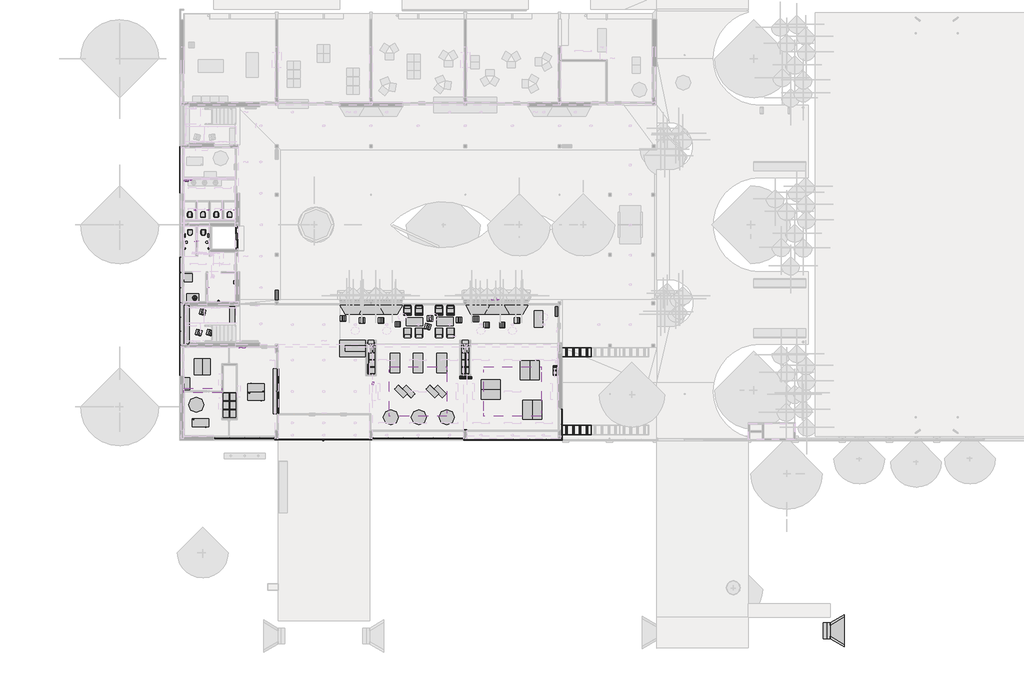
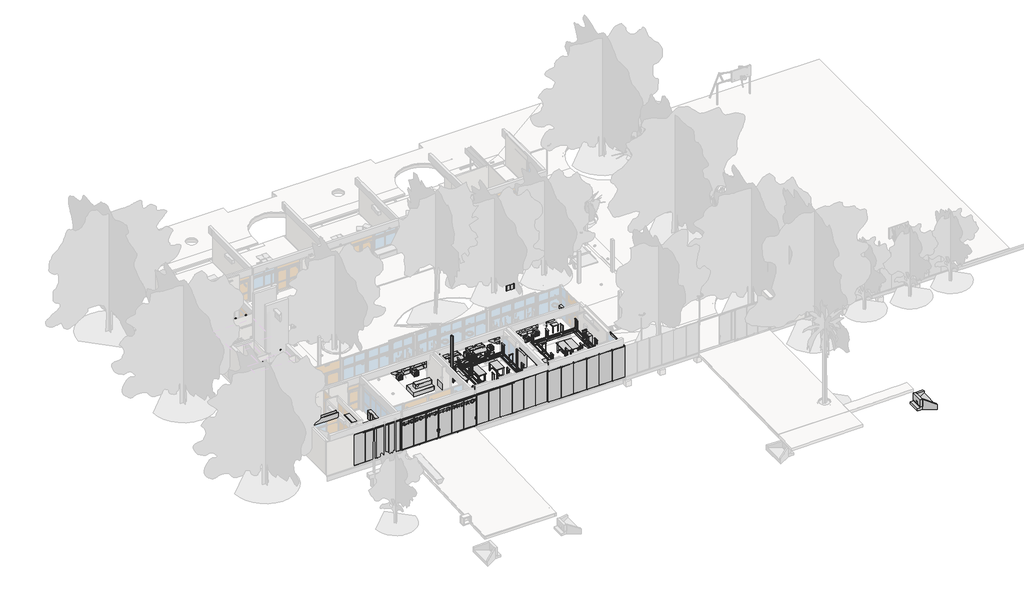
# One storey, part 17 of 22: 111 furniture elements, 12 flow terminals.
"""IFC4 building model written with IfcOpenShell, lengths in millimetres."""

from ifc_helpers import new_model, si_unit, frame, origin, place, context, project, spatial, polyline, circle_curve, outline, extrude, faceted_brep, transform, mapped, element, save
from ifc_brep_helpers import plane_surface, revolved_surface, advanced_brep
from components import flow_terminal_9181aeda, flow_terminal_78c35d65, flow_terminal_6fa54989, flow_terminal_28779c85, flow_terminal_a7845b32, furniture_e56d43f1, furniture_fee86474, furniture_ab439d99, furniture_2009737b, furniture_8aaaafb9, furniture_f0ac5a82, furniture_249bf919, furniture_e9eda647, furniture_beb05811, furniture_b563ccbc, furniture_6fc450c9, furniture_e9ee7769, furniture_d5f9400a, furniture_98008c16, furniture_2b1f3197, furniture_d2b343ed, furniture_6718e464, furniture_ebda3335, furniture_93ab70db, furniture_eb17cc9a, furniture_b6be04e7, furniture_6eccd7ec, furniture_77244c26, furniture_46a57376, furniture_a2313781, furniture_a3cfc38e, furniture_6e125edc, furniture_e4396d0a, furniture_8692d969, furniture_5da2b43e, furniture_8ed5fab2, furniture_ad757547, furniture_6cb53b01, furniture_6d9eaf94, furniture_0d6fb3f9, furniture_d7d46065, furniture_3ae75f37, furniture_bbb2e843, furniture_d5d44c6f, furniture_649de98c, furniture_868831be, furniture_17f0d0bd, furniture_2_12_escritorio_2_12_escritorio_cd86329a, furniture_2_16_mesa_redonda_2_16_mesa_redonda_79845c6b, furniture_2_7_mesa_baja_2_7_mesa_baja_48d4bc2e, generico_20x20_ad66ac92, generico_20x20_1fd937c5, generico_30x30_47294acd, puerta_ascensor_pet_puerta_ascensor_pet_5d3d87b6

model = new_model("IFC4")

# Units and contexts
model_context = context("Model", 3, world=origin())
ifc_project = project(units=[si_unit("LENGTHUNIT", "METRE", prefix="MILLI")], contexts=[model_context])

# Site, building, storey
site = spatial("IfcSite", under=ifc_project)
building = spatial("IfcBuilding", under=site)
storey = spatial("IfcBuildingStorey", under=building, Name="PLanta baja", Elevation=0.0)

# Flow terminals
placement = place(None, origin())
flow_terminal_shape = flow_terminal_9181aeda(model_context)
element("IfcFlowTerminal", 1, ObjectType="Inodoro-Ferrum-Tapa_y_Asiento-TKMP_TKM_TKXM_TKXMC : Tapa de Inodoro", at=placement, inside=storey, context=model_context, shape_type="MappedRepresentation", body=[
    mapped(flow_terminal_shape, transform((3842.4673694, 15870.1364374, 385.0), x_axis=(1.0, 0.0, 0.0), y_axis=(0.0, 1.0, 0.0), z_axis=(0.0, 0.0, 1.0))),
])
element("IfcFlowTerminal", 2, ObjectType="Inodoro-Ferrum-Tapa_y_Asiento-TKMP_TKM_TKXM_TKXMC : Tapa de Inodoro", at=placement, inside=storey, context=model_context, shape_type="MappedRepresentation", body=[
    mapped(flow_terminal_shape, transform((3832.4673694, 16255.3243696, 385.0), x_axis=(-1.0, 0.0, 0.0), y_axis=(0.0, -1.0, 0.0), z_axis=(0.0, 0.0, 1.0))),
])
element("IfcFlowTerminal", 3, ObjectType="Inodoro-Ferrum-Tapa_y_Asiento-TKMP_TKM_TKXM_TKXMC : Tapa de Inodoro", at=placement, inside=storey, context=model_context, shape_type="MappedRepresentation", body=[
    mapped(flow_terminal_shape, transform((4799.9673694, 16255.3243696, 385.0), x_axis=(-1.0, 0.0, 0.0), y_axis=(0.0, -1.0, 0.0), z_axis=(0.0, 0.0, 1.0))),
])
element("IfcFlowTerminal", 4, ObjectType="Inodoro-Ferrum-Tapa_y_Asiento-TKMP_TKM_TKXM_TKXMC : Tapa de Inodoro", at=placement, inside=storey, context=model_context, shape_type="MappedRepresentation", body=[
    mapped(flow_terminal_shape, transform((5767.4673694, 16255.3243696, 385.0), x_axis=(-1.0, 0.0, 0.0), y_axis=(0.0, -1.0, 0.0), z_axis=(0.0, 0.0, 1.0))),
])
element("IfcFlowTerminal", 5, ObjectType="Inodoro-Ferrum-Tapa_y_Asiento-TKMP_TKM_TKXM_TKXMC : Tapa de Inodoro", at=placement, inside=storey, context=model_context, shape_type="MappedRepresentation", body=[
    mapped(flow_terminal_shape, transform((6734.9673694, 16255.3243696, 385.0), x_axis=(-1.0, 0.0, 0.0), y_axis=(0.0, -1.0, 0.0), z_axis=(0.0, 0.0, 1.0))),
])
flow_terminal_2_shape = flow_terminal_78c35d65(model_context)
element("IfcFlowTerminal", 6, ObjectType="Lavatorio-Ferrum-Columna-CKC : Columna Lavatorio", at=placement, inside=storey, context=model_context, shape_type="MappedRepresentation", body=[
    mapped(flow_terminal_2_shape, transform((5148.0142444, 14690.7304035, 0.0), x_axis=(0.0, 1.0, 0.0), y_axis=(-1.0, 0.0, 0.0), z_axis=(0.0, 0.0, 1.0))),
])
element("IfcFlowTerminal", 7, ObjectType="Lavatorio-Ferrum-Columna-CKC : Columna Lavatorio", at=placement, inside=storey, context=model_context, shape_type="MappedRepresentation", body=[
    mapped(flow_terminal_2_shape, transform((3519.4204944, 14690.8937354, 0.0), x_axis=(0.0, -1.0, 0.0), y_axis=(1.0, 0.0, 0.0), z_axis=(0.0, 0.0, 1.0))),
])
flow_terminal_3_shape = flow_terminal_6fa54989(model_context)
element("IfcFlowTerminal", 8, ObjectType="APSA-I-AI-Bacha Circular Sobreponer-PET : APSA-I-AI-Bacha Circular Sobreponer-30cm-PET", at=placement, inside=storey, context=model_context, shape_type="MappedRepresentation", body=[
    mapped(flow_terminal_3_shape, transform((4192.1232507, 10620.2304035, 900.0), x_axis=(1.0, 0.0, 0.0), y_axis=(0.0, 1.0, 0.0), z_axis=(0.0, 0.0, 1.0))),
])
flow_terminal_4_shape = flow_terminal_28779c85(model_context)
element("IfcFlowTerminal", 9, ObjectType="Inodoro-Ferrum-Tapa_y_Asiento-TKMP_TKM_TKXM_TKXMC : Tapa de Inodoro", at=placement, inside=storey, context=model_context, shape_type="MappedRepresentation", body=[
    mapped(flow_terminal_4_shape, transform((4819.2346418, 15870.1364374, 385.0), x_axis=(-1.0, 0.0, 0.0), y_axis=(0.0, -1.0, 0.0), z_axis=(0.0, 0.0, 1.0))),
])
flow_terminal_5_shape = flow_terminal_a7845b32(model_context)
element("IfcFlowTerminal", 10, ObjectType="APSA-I-HI-Boca de incendio-PET : APSA_I_HI_Boca de incendio-PET", at=placement, inside=storey, context=model_context, shape_type="MappedRepresentation", body=[
    mapped(flow_terminal_5_shape, transform((10190.2812196, 10841.9426808, 772.2792307), x_axis=(1.0, 0.0, 0.0), y_axis=(0.0, 1.0, 0.0), z_axis=(0.0, 0.0, 1.0))),
])
element("IfcFlowTerminal", 11, ObjectType="APSA-I-HI-Boca de incendio-PET : APSA_I_HI_Boca de incendio-PET", at=placement, inside=storey, context=model_context, shape_type="MappedRepresentation", body=[
    mapped(flow_terminal_5_shape, transform((16801.0966893, 5401.786616, 800.0), x_axis=(1.0, 0.0, 0.0), y_axis=(0.0, 1.0, 0.0), z_axis=(0.0, 0.0, 1.0))),
])
element("IfcFlowTerminal", 12, ObjectType="APSA-I-HI-Boca de incendio-PET : APSA_I_HI_Boca de incendio-PET", at=placement, inside=storey, context=model_context, shape_type="MappedRepresentation", body=[
    mapped(flow_terminal_5_shape, transform((30666.2173693, 9627.7304035, 772.4277148), x_axis=(1.0, 0.0, 0.0), y_axis=(0.0, 1.0, 0.0), z_axis=(0.0, 0.0, 1.0))),
])

# Furniture
element("IfcFurniture", 13, ObjectType="C11 Asiento Rectangulo : C11.2 Asiento rectangular 290x40x40", at=placement, inside=storey, context=model_context, shape_type="SweptSolid", body=[
    extrude(outline(polyline([(3388.7173693, 10120.2304035), (3788.7173693, 10120.2304035), (3788.7173693, 7220.2304035), (3388.7173693, 7220.2304035), (3388.7173693, 10120.2304035)])), frame((0.0, 0.0, -20.0), z_axis=(0.0, 0.0, 1.0), x_axis=(1.0, 0.0, 0.0)), (0.0, 0.0, 1.0), 20.0),
    extrude(outline(polyline([(3388.7173693, 10120.2304035), (3788.7173693, 10120.2304035), (3788.7173693, 7220.2304035), (3388.7173693, 7220.2304035), (3388.7173693, 10120.2304035)]), holes=[polyline([(3408.7173693, 10100.2304035), (3408.7173693, 7240.2304035), (3768.7173693, 7240.2304035), (3768.7173693, 10100.2304035), (3408.7173693, 10100.2304035)])]), frame((0.0, 0.0, -400.0), z_axis=(0.0, 0.0, 1.0), x_axis=(1.0, 0.0, 0.0)), (0.0, 0.0, 1.0), 380.0),
])
element("IfcFurniture", 14, ObjectType="Alcantarilla : Trinidad3_250mm", at=placement, inside=storey, context=model_context, shape_type="SolidModel", body=[
    faceted_brep([(50688.7173693, -13164.3024734, -290.0), (50688.7173693, -13337.5075541, -290.0), (50693.7173693, -13334.6208028, -290.0), (50693.7173693, -13161.415722, -290.0), (50688.7173693, -13164.3024734, -990.0), (50688.7173693, -13337.5075541, -990.0), (51738.7173693, -12731.2897715, -990.0), (51738.7173693, -12731.2897715, -790.0), (51738.7173693, -12558.0846907, -790.0), (51738.7173693, -12558.0846907, -1290.0), (50688.7173693, -13164.3024734, -1290.0), (51738.7173693, -14747.3151753, -990.0), (51738.7173693, -14747.3151753, -790.0), (51738.7173693, -14920.520256, -790.0), (51738.7173693, -14920.520256, -1290.0), (50688.7173693, -14314.3024734, -290.0), (50693.7173693, -14317.1892247, -290.0), (50693.7173693, -14143.984144, -290.0), (50688.7173693, -14141.0973926, -290.0), (50688.7173693, -14141.0973926, -990.0), (50688.7173693, -14314.3024734, -990.0), (50688.7173693, -14314.3024734, -1290.0), (50488.7173693, -13164.3024734, -990.0), (50488.7173693, -14314.3024734, -990.0), (50688.7173693, -13337.5075541, -1090.0), (51588.7173693, -12817.8923119, -1090.0), (51588.7173693, -14660.7126349, -1090.0), (50688.7173693, -14141.0973926, -1090.0), (50188.7173693, -13164.3024734, -1290.0), (50188.7173693, -13164.3024734, -1090.0), (50488.7173693, -13164.3024734, -1090.0), (50488.7173693, -14314.3024734, -1090.0), (50188.7173693, -14314.3024734, -1090.0), (50188.7173693, -14314.3024734, -1290.0), (50688.7173693, -13337.5075541, -1290.0), (50688.7173693, -14141.0973926, -1290.0), (51588.7173693, -14660.7126349, -1290.0), (51588.7173693, -12817.8923119, -1290.0)], [[[0, 1, 2, 3]], [[1, 0, 4, 5]], [[2, 1, 5, 6, 7]], [[3, 2, 7, 8]], [[0, 3, 8, 9, 10, 4]], [[7, 6, 11, 12, 13, 14, 9, 8]], [[15, 16, 17, 18]], [[15, 18, 19, 20]], [[18, 17, 12, 11, 19]], [[17, 16, 13, 12]], [[16, 15, 20, 21, 14, 13]], [[4, 22, 23, 20, 19, 11, 6, 5]], [[24, 25, 26, 27]], [[22, 4, 10, 28, 29, 30]], [[23, 22, 30, 31]], [[21, 20, 23, 31, 32, 33]], [[29, 32, 31, 30]], [[14, 21, 33, 28, 10, 9], [34, 35, 36, 37]], [[32, 29, 28, 33]], [[34, 37, 25, 24]], [[37, 36, 26, 25]], [[36, 35, 27, 26]], [[35, 34, 24, 27]]]),
    advanced_brep(
    [(50688.7173693, -13164.3024734, -290.0), (50488.7173693, -13164.3024734, -290.0), (50488.7173693, -14314.3024734, -290.0), (50688.7173693, -14314.3024734, -290.0), (50688.7173693, -14314.3024734, -990.0), (50488.7173693, -14314.3024734, -990.0), (50488.7173693, -13739.3024734, -990.0), (50488.7173693, -13164.3024734, -990.0), (50688.7173693, -13164.3024734, -990.0), (50688.7173693, -13739.3024734, -990.0), (50488.7173693, -13739.3024734, -690.0), (50688.7173693, -13739.3024734, -690.0)],
    [
        (0, 1),
        (1, 2),
        (2, 3),
        (3, 0),
        (4, 5),
        (5, 6),
        (6, 7),
        (7, 8),
        (8, 9),
        (9, 4),
        (0, 8),
        (7, 1),
        (6, 10, circle_curve(frame((50488.7173693, -13739.3024734, -840.0), z_axis=(1.0, 0.0, 0.0), x_axis=(0.0, 1.0, 0.0)), 150.0)),
        (10, 6, circle_curve(frame((50488.7173693, -13739.3024734, -840.0), z_axis=(1.0, 0.0, 0.0), x_axis=(0.0, 1.0, 0.0)), 150.0)),
        (5, 2),
        (4, 3),
        (9, 11, circle_curve(frame((50688.7173693, -13739.3024734, -840.0), z_axis=(-1.0, 0.0, 0.0), x_axis=(0.0, 1.0, 0.0)), 150.0)),
        (11, 9, circle_curve(frame((50688.7173693, -13739.3024734, -840.0), z_axis=(-1.0, 0.0, 0.0), x_axis=(0.0, 1.0, 0.0)), 150.0)),
        (6, 9),
        (11, 10),
    ],
    [
        plane_surface(frame((50488.7173693, -13164.3024734, -290.0), z_axis=(0.0, 0.0, 1.0), x_axis=(-1.0, 0.0, 0.0))),
        plane_surface(frame((50488.7173693, -13164.3024734, -990.0), z_axis=(0.0, 0.0, -1.0), x_axis=(1.0, 0.0, 0.0))),
        plane_surface(frame((50688.7173693, -13164.3024734, -290.0), z_axis=(0.0, 1.0, 0.0), x_axis=(0.0, 0.0, -1.0))),
        plane_surface(frame((50488.7173693, -13164.3024734, -290.0), z_axis=(-1.0, 0.0, 0.0), x_axis=(0.0, 0.0, -1.0))),
        plane_surface(frame((50488.7173693, -14314.3024734, -290.0), z_axis=(0.0, -1.0, 0.0), x_axis=(0.0, 0.0, -1.0))),
        plane_surface(frame((50688.7173693, -14314.3024734, -290.0), z_axis=(1.0, 0.0, 0.0), x_axis=(0.0, 0.0, -1.0))),
        revolved_surface(polyline([(50688.7173693, -13589.3024734, -840.0), (50488.7173693, -13589.3024734, -840.0)]), (49739.3318241, -13739.3024734, -840.0), (1.0, 0.0, 0.0)),
    ],
    [
        (0, [[1, 2, 3, 4]]),
        (1, [[5, 6, 7, 8, 9, 10]]),
        (2, [[-1, 11, -8, 12]]),
        (3, [[-2, -12, -7, 13, 14, -6, 15]]),
        (4, [[-3, -15, -5, 16]]),
        (5, [[-4, -16, -10, 17, 18, -9, -11]]),
        (6, [[19, -18, 20, -13]]),
        (6, [[-19, -14, -20, -17]]),
    ],
),
])
furniture_shape = furniture_e56d43f1(model_context)
element("IfcFurniture", 15, ObjectType="2.5 Mesa cuadrada 60x60 : 2.5 Mesa cuadrada 60x60", at=placement, inside=storey, context=model_context, shape_type="MappedRepresentation", body=[
    mapped(furniture_shape, transform((3710.4059583, 12093.8327572, 0.0), x_axis=(1.0, 0.0, 0.0), y_axis=(0.0, 1.0, 0.0), z_axis=(0.0, 0.0, 1.0))),
])
furniture_2_shape = furniture_fee86474(model_context)
element("IfcFurniture", 16, ObjectType="2.6 Mesa cuadrada 60x120 : 2.6 Mesa cuadrada 60x120", at=placement, inside=storey, context=model_context, shape_type="MappedRepresentation", body=[
    mapped(furniture_2_shape, transform((29354.5980954, 9062.4138054, 0.0), x_axis=(0.0, -1.0, 0.0), y_axis=(1.0, 0.0, 0.0), z_axis=(0.0, 0.0, 1.0))),
])
element("IfcFurniture", 17, ObjectType="2.6 Mesa cuadrada 60x120 : 2.6 Mesa cuadrada 60x120", at=placement, inside=storey, context=model_context, shape_type="MappedRepresentation", body=[
    mapped(furniture_2_shape, transform((4443.7173693, 5580.2304035, 0.0), x_axis=(0.0, -1.0, 0.0), y_axis=(1.0, 0.0, 0.0), z_axis=(0.0, 0.0, 1.0))),
])
element("IfcFurniture", 18, ObjectType="2.6 Mesa cuadrada 60x120 : 2.6 Mesa cuadrada 60x120", at=placement, inside=storey, context=model_context, shape_type="MappedRepresentation", body=[
    mapped(furniture_2_shape, transform((5043.7173932, 5580.2304035, 0.0), x_axis=(0.0, -1.0, 0.0), y_axis=(1.0, 0.0, 0.0), z_axis=(0.0, 0.0, 1.0))),
])
furniture_3_shape = furniture_ab439d99(model_context)
element("IfcFurniture", 19, ObjectType="4.5 Estantería baja : 4.5 Estantería baja", at=placement, inside=storey, context=model_context, shape_type="MappedRepresentation", body=[
    mapped(furniture_3_shape, transform((21578.7173693, 3770.2304035, 0.0), x_axis=(0.7071067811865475, -0.7071067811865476, 0.0), y_axis=(0.7071067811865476, 0.7071067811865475, 0.0), z_axis=(0.0, 0.0, 1.0))),
])
element("IfcFurniture", 20, ObjectType="4.5 Estantería baja : 4.5 Estantería baja", at=placement, inside=storey, context=model_context, shape_type="MappedRepresentation", body=[
    mapped(furniture_3_shape, transform((22143.2339698, 3770.2304035, 0.0), x_axis=(-0.70710678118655, 0.707106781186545, 0.0), y_axis=(-0.707106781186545, -0.70710678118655, 0.0), z_axis=(0.0, 0.0, 1.0))),
])
element("IfcFurniture", 21, ObjectType="4.5 Estantería baja : 4.5 Estantería baja", at=placement, inside=storey, context=model_context, shape_type="MappedRepresentation", body=[
    mapped(furniture_3_shape, transform((19278.7173693, 3770.2304035, 0.0), x_axis=(0.7071067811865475, -0.7071067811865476, 0.0), y_axis=(0.7071067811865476, 0.7071067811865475, 0.0), z_axis=(0.0, 0.0, 1.0))),
])
element("IfcFurniture", 22, ObjectType="4.5 Estantería baja : 4.5 Estantería baja", at=placement, inside=storey, context=model_context, shape_type="MappedRepresentation", body=[
    mapped(furniture_3_shape, transform((19843.2339698, 3770.2304035, 0.0), x_axis=(-0.70710678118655, 0.707106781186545, 0.0), y_axis=(-0.707106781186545, -0.70710678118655, 0.0), z_axis=(0.0, 0.0, 1.0))),
])
element("IfcFurniture", 23, ObjectType="4.5 Estantería baja : 4.5 Estantería baja", at=placement, inside=storey, context=model_context, shape_type="MappedRepresentation", body=[
    mapped(furniture_3_shape, transform((3628.7173694, 4337.7304035, 0.0), x_axis=(0.0, 1.0, 0.0), y_axis=(-1.0, 0.0, 0.0), z_axis=(0.0, 0.0, 1.0))),
])
furniture_4_shape = furniture_2009737b(model_context)
element("IfcFurniture", 24, ObjectType="1.7 Taburete bajo : 1.7 Taburete bajo", at=placement, inside=storey, context=model_context, shape_type="MappedRepresentation", body=[
    mapped(furniture_4_shape, transform((19048.7173694, 8690.2304035, 0.0), x_axis=(0.0, 1.0, 0.0), y_axis=(-1.0, 0.0, 0.0), z_axis=(0.0, 0.0, 1.0))),
])
element("IfcFurniture", 25, ObjectType="1.7 Taburete bajo : 1.7 Taburete bajo", at=placement, inside=storey, context=model_context, shape_type="MappedRepresentation", body=[
    mapped(furniture_4_shape, transform((16438.7173694, 8965.7526693, 0.0), x_axis=(0.0, 1.0, 0.0), y_axis=(-1.0, 0.0, 0.0), z_axis=(0.0, 0.0, 1.0))),
])
element("IfcFurniture", 26, ObjectType="1.7 Taburete bajo : 1.7 Taburete bajo", at=placement, inside=storey, context=model_context, shape_type="MappedRepresentation", body=[
    mapped(furniture_4_shape, transform((17838.7173694, 8965.7526693, 0.0), x_axis=(0.0, 1.0, 0.0), y_axis=(-1.0, 0.0, 0.0), z_axis=(0.0, 0.0, 1.0))),
])
element("IfcFurniture", 27, ObjectType="1.7 Taburete bajo : 1.7 Taburete bajo", at=placement, inside=storey, context=model_context, shape_type="MappedRepresentation", body=[
    mapped(furniture_4_shape, transform((21241.1338764, 8520.2304035, 0.0), x_axis=(0.2588190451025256, 0.965925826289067, 0.0), y_axis=(-0.965925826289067, 0.2588190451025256, 0.0), z_axis=(0.0, 0.0, 1.0))),
])
element("IfcFurniture", 28, ObjectType="1.7 Taburete bajo : 1.7 Taburete bajo", at=placement, inside=storey, context=model_context, shape_type="MappedRepresentation", body=[
    mapped(furniture_4_shape, transform((24763.7173693, 9062.4138054, 0.0), x_axis=(0.0, 1.0, 0.0), y_axis=(-1.0, 0.0, 0.0), z_axis=(0.0, 0.0, 1.0))),
])
element("IfcFurniture", 29, ObjectType="1.7 Taburete bajo : 1.7 Taburete bajo", at=placement, inside=storey, context=model_context, shape_type="MappedRepresentation", body=[
    mapped(furniture_4_shape, transform((23528.7173694, 8994.1501609, 0.0), x_axis=(0.0, 1.0, 0.0), y_axis=(-1.0, 0.0, 0.0), z_axis=(0.0, 0.0, 1.0))),
])
element("IfcFurniture", 30, ObjectType="1.7 Taburete bajo : 1.7 Taburete bajo", at=placement, inside=storey, context=model_context, shape_type="MappedRepresentation", body=[
    mapped(furniture_4_shape, transform((15038.7173694, 9120.2304035, 0.0), x_axis=(0.0, 1.0, 0.0), y_axis=(-1.0, 0.0, 0.0), z_axis=(0.0, 0.0, 1.0))),
])
element("IfcFurniture", 31, ObjectType="1.7 Taburete bajo : 1.7 Taburete bajo", at=placement, inside=storey, context=model_context, shape_type="MappedRepresentation", body=[
    mapped(furniture_4_shape, transform((21405.8746569, 9120.2304035, 0.0), x_axis=(0.0, 1.0, 0.0), y_axis=(-1.0, 0.0, 0.0), z_axis=(0.0, 0.0, 1.0))),
])
element("IfcFurniture", 32, ObjectType="1.7 Taburete bajo : 1.7 Taburete bajo", at=placement, inside=storey, context=model_context, shape_type="MappedRepresentation", body=[
    mapped(furniture_4_shape, transform((25555.6871544, 8644.6112297, 0.0), x_axis=(0.0, 1.0, 0.0), y_axis=(-1.0, 0.0, 0.0), z_axis=(0.0, 0.0, 1.0))),
])
element("IfcFurniture", 33, ObjectType="1.7 Taburete bajo : 1.7 Taburete bajo", at=placement, inside=storey, context=model_context, shape_type="MappedRepresentation", body=[
    mapped(furniture_4_shape, transform((26695.6871544, 8644.6112297, 0.0), x_axis=(0.0, 1.0, 0.0), y_axis=(-1.0, 0.0, 0.0), z_axis=(0.0, 0.0, 1.0))),
])
element("IfcFurniture", 34, ObjectType="1.7 Taburete bajo : 1.7 Taburete bajo", at=placement, inside=storey, context=model_context, shape_type="MappedRepresentation", body=[
    mapped(furniture_4_shape, transform((27786.0344649, 8965.7526693, 0.0), x_axis=(0.0, 1.0, 0.0), y_axis=(-1.0, 0.0, 0.0), z_axis=(0.0, 0.0, 1.0))),
])
element("IfcFurniture", 35, ObjectType="1.7 Taburete bajo : 1.7 Taburete bajo", at=placement, inside=storey, context=model_context, shape_type="MappedRepresentation", body=[
    mapped(furniture_4_shape, transform((4761.8519923, 9582.4976615, -400.0), x_axis=(0.2588190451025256, 0.965925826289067, 0.0), y_axis=(-0.965925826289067, 0.2588190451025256, 0.0), z_axis=(0.0, 0.0, 1.0))),
])
element("IfcFurniture", 36, ObjectType="1.7 Taburete bajo : 1.7 Taburete bajo", at=placement, inside=storey, context=model_context, shape_type="MappedRepresentation", body=[
    mapped(furniture_4_shape, transform((5282.0043712, 8082.4976615, -400.0), x_axis=(0.2588190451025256, 0.965925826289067, 0.0), y_axis=(-0.965925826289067, 0.2588190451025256, 0.0), z_axis=(0.0, 0.0, 1.0))),
])
element("IfcFurniture", 37, ObjectType="1.7 Taburete bajo : 1.7 Taburete bajo", at=placement, inside=storey, context=model_context, shape_type="MappedRepresentation", body=[
    mapped(furniture_4_shape, transform((4482.0043712, 8082.4976615, -400.0), x_axis=(0.2588190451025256, 0.965925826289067, 0.0), y_axis=(-0.965925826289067, 0.2588190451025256, 0.0), z_axis=(0.0, 0.0, 1.0))),
])
furniture_5_shape = furniture_8aaaafb9(model_context)
element("IfcFurniture", 38, ObjectType="2.2 Mesa de madera de física : 2.2 Mesa de madera de física", at=placement, inside=storey, context=model_context, shape_type="MappedRepresentation", body=[
    mapped(furniture_5_shape, transform((18872.7889719, 5851.0129588, 0.0), x_axis=(0.0, -1.0, 0.0), y_axis=(1.0, 0.0, 0.0), z_axis=(0.0, 0.0, 1.0))),
])
element("IfcFurniture", 39, ObjectType="2.2 Mesa de madera de física : 2.2 Mesa de madera de física", at=placement, inside=storey, context=model_context, shape_type="MappedRepresentation", body=[
    mapped(furniture_5_shape, transform((22298.0029804, 5851.0129588, 0.0), x_axis=(0.0, -1.0, 0.0), y_axis=(1.0, 0.0, 0.0), z_axis=(0.0, 0.0, 1.0))),
])
element("IfcFurniture", 40, ObjectType="2.2 Mesa de madera de física : 2.2 Mesa de madera de física", at=placement, inside=storey, context=model_context, shape_type="MappedRepresentation", body=[
    mapped(furniture_5_shape, transform((20569.3083213, 5851.0129588, 0.0), x_axis=(0.0, -1.0, 0.0), y_axis=(1.0, 0.0, 0.0), z_axis=(0.0, 0.0, 1.0))),
])
element("IfcFurniture", 41, ObjectType="2.2 Mesa de madera de física : 2.2 Mesa de madera de física", at=placement, inside=storey, context=model_context, shape_type="MappedRepresentation", body=[
    mapped(furniture_5_shape, transform((28317.6547161, 5332.9831329, 0.0), x_axis=(0.0, 1.0, 0.0), y_axis=(-1.0, 0.0, 0.0), z_axis=(0.0, 0.0, 1.0))),
])
element("IfcFurniture", 42, ObjectType="2.2 Mesa de madera de física : 2.2 Mesa de madera de física", at=placement, inside=storey, context=model_context, shape_type="MappedRepresentation", body=[
    mapped(furniture_5_shape, transform((29017.6669231, 5332.9831329, 0.0), x_axis=(0.0, 1.0, 0.0), y_axis=(-1.0, 0.0, 0.0), z_axis=(0.0, 0.0, 1.0))),
])
element("IfcFurniture", 43, ObjectType="2.2 Mesa de madera de física : 2.2 Mesa de madera de física", at=placement, inside=storey, context=model_context, shape_type="MappedRepresentation", body=[
    mapped(furniture_5_shape, transform((25856.7192687, 4295.7470216, 0.0), x_axis=(1.0, 0.0, 0.0), y_axis=(0.0, 1.0, 0.0), z_axis=(0.0, 0.0, 1.0))),
])
element("IfcFurniture", 44, ObjectType="2.2 Mesa de madera de física : 2.2 Mesa de madera de física", at=placement, inside=storey, context=model_context, shape_type="MappedRepresentation", body=[
    mapped(furniture_5_shape, transform((25856.7192687, 3595.7348146, 0.0), x_axis=(1.0, 0.0, 0.0), y_axis=(0.0, 1.0, 0.0), z_axis=(0.0, 0.0, 1.0))),
])
element("IfcFurniture", 45, ObjectType="2.2 Mesa de madera de física : 2.2 Mesa de madera de física", at=placement, inside=storey, context=model_context, shape_type="MappedRepresentation", body=[
    mapped(furniture_5_shape, transform((28517.6424852, 2432.9831329, 0.0), x_axis=(0.0, 1.0, 0.0), y_axis=(-1.0, 0.0, 0.0), z_axis=(0.0, 0.0, 1.0))),
])
element("IfcFurniture", 46, ObjectType="2.2 Mesa de madera de física : 2.2 Mesa de madera de física", at=placement, inside=storey, context=model_context, shape_type="MappedRepresentation", body=[
    mapped(furniture_5_shape, transform((29217.6546923, 2432.9831329, 0.0), x_axis=(0.0, 1.0, 0.0), y_axis=(-1.0, 0.0, 0.0), z_axis=(0.0, 0.0, 1.0))),
])
furniture_6_shape = furniture_f0ac5a82(model_context)
element("IfcFurniture", 47, ObjectType="H03 Protección 3 módulos : H3.1 Protección 3 módulos 350x315", at=placement, inside=storey, context=model_context, shape_type="MappedRepresentation", body=[
    mapped(furniture_6_shape, transform((3679.9673694, 19468.3682299, -50.0), x_axis=(0.0, -1.0, 0.0), y_axis=(1.0, 0.0, 0.0), z_axis=(0.0, 0.0, 1.0))),
])
furniture_7_shape = furniture_249bf919(model_context)
element("IfcFurniture", 48, ObjectType="H03 Protección 3 módulos : H3.3 Protección 3 módulos 345x315", at=placement, inside=storey, context=model_context, shape_type="MappedRepresentation", body=[
    mapped(furniture_7_shape, transform((3678.7173694, 11414.9307299, -50.0), x_axis=(0.0, -1.0, 0.0), y_axis=(1.0, 0.0, 0.0), z_axis=(0.0, 0.0, 1.0))),
])
furniture_8_shape = furniture_e9eda647(model_context)
element("IfcFurniture", 49, ObjectType="H03 Protección 3 módulos : H3.2 Protección 3 módulos 320x315", at=placement, inside=storey, context=model_context, shape_type="MappedRepresentation", body=[
    mapped(furniture_8_shape, transform((3678.7173694, 8231.5973966, -50.0), x_axis=(0.0, -1.0, 0.0), y_axis=(1.0, 0.0, 0.0), z_axis=(0.0, 0.0, 1.0))),
])
furniture_9_shape = furniture_beb05811(model_context)
element("IfcFurniture", 50, ObjectType="H02 Protección 2 módulos : H02 Protección 2 módulos 230x315", at=placement, inside=storey, context=model_context, shape_type="MappedRepresentation", body=[
    mapped(furniture_9_shape, transform((3678.7173694, 6104.2640633, -50.0), x_axis=(0.0, -1.0, 0.0), y_axis=(1.0, 0.0, 0.0), z_axis=(0.0, 0.0, 1.0))),
])
element("IfcFurniture", 51, ObjectType="H02 Protección 2 módulos : H02 Protección 2 módulos 230x315", at=placement, inside=storey, context=model_context, shape_type="MappedRepresentation", body=[
    mapped(furniture_9_shape, transform((30498.7173693, 1312.5300771, -50.0), x_axis=(0.0, 1.0, 0.0), y_axis=(-1.0, 0.0, 0.0), z_axis=(0.0, 0.0, 1.0))),
])
furniture_10_shape = furniture_b563ccbc(model_context)
element("IfcFurniture", 52, ObjectType="H04 Protección 4 módulos : H4.1 Protección 4 módulos 450x315", at=placement, inside=storey, context=model_context, shape_type="MappedRepresentation", body=[
    mapped(furniture_10_shape, transform((7794.0170429, 920.2304035, -50.0), x_axis=(1.0, 0.0, 0.0), y_axis=(0.0, 1.0, 0.0), z_axis=(0.0, 0.0, 1.0))),
])
furniture_11_shape = furniture_6fc450c9(model_context)
element("IfcFurniture", 53, ObjectType="H06 Protección 6 módulos : H6.1 Protección 6 módulos 670x315", at=placement, inside=storey, context=model_context, shape_type="MappedRepresentation", body=[
    mapped(furniture_11_shape, transform((19394.0170429, 920.2304035, -50.0), x_axis=(1.0, 0.0, 0.0), y_axis=(0.0, 1.0, 0.0), z_axis=(0.0, 0.0, 1.0))),
])
furniture_12_shape = furniture_e9ee7769(model_context)
element("IfcFurniture", 54, ObjectType="H06 Protección 6 módulos : H6.2 Protección 6 módulos 721x315", at=placement, inside=storey, context=model_context, shape_type="MappedRepresentation", body=[
    mapped(furniture_12_shape, transform((26247.3503762, 810.2304035, -50.0), x_axis=(1.0, 0.0, 0.0), y_axis=(0.0, 1.0, 0.0), z_axis=(0.0, 0.0, 1.0))),
])
furniture_13_shape = furniture_d5f9400a(model_context)
element("IfcFurniture", 55, ObjectType="P01 Mesada Silestone 1 bacha : P01 Mesada Silestone 1 bacha", at=placement, inside=storey, context=model_context, shape_type="MappedRepresentation", body=[
    mapped(furniture_13_shape, transform((3334.4578813, 10335.2304035, 900.0), x_axis=(-1.0, 0.0, 0.0), y_axis=(0.0, -1.0, 0.0), z_axis=(0.0, 0.0, 1.0))),
])
furniture_14_shape = furniture_98008c16(model_context)
element("IfcFurniture", 56, ObjectType="C15 Mueble mostrador 4 modulos : C15 Mueble mostrador 4 modulos", at=placement, inside=storey, context=model_context, shape_type="MappedRepresentation", body=[
    mapped(furniture_14_shape, transform((10333.7173693, 3827.4307299, 0.0), x_axis=(0.0, -1.0, 0.0), y_axis=(1.0, 0.0, 0.0), z_axis=(0.0, 0.0, 1.0))),
])
furniture_15_shape = furniture_2b1f3197(model_context)
element("IfcFurniture", 57, ObjectType="C06 Asiento Trapecio : C06 Asiento Trapecio 180x40", at=placement, inside=storey, context=model_context, shape_type="MappedRepresentation", body=[
    mapped(furniture_15_shape, transform((17106.0375725, 9420.2304035, 0.0), x_axis=(1.0, 0.0, 0.0), y_axis=(0.0, 1.0, 0.0), z_axis=(0.0, 0.0, 1.0))),
])
element("IfcFurniture", 58, ObjectType="C06 Asiento Trapecio : C06 Asiento Trapecio 180x40", at=placement, inside=storey, context=model_context, shape_type="MappedRepresentation", body=[
    mapped(furniture_15_shape, transform((26306.0375725, 9420.2304035, 0.0), x_axis=(1.0, 0.0, 0.0), y_axis=(0.0, 1.0, 0.0), z_axis=(0.0, 0.0, 1.0))),
])
furniture_16_shape = furniture_d2b343ed(model_context)
element("IfcFurniture", 59, ObjectType="C16 Puerta plegadiza 4.5hojas : C16 Puerta plegadiza 4.5hojas", at=placement, inside=storey, context=model_context, shape_type="MappedRepresentation", body=[
    mapped(furniture_16_shape, transform((23888.7173694, 2875.5300771, 0.0), x_axis=(0.0, 1.0, 0.0), y_axis=(-1.0, 0.0, 0.0), z_axis=(0.0, 0.0, 1.0))),
])
furniture_17_shape = furniture_6718e464(model_context)
element("IfcFurniture", 60, ObjectType="V01 Espejo : V1.2 Espejo 60x120", at=placement, inside=storey, context=model_context, shape_type="MappedRepresentation", body=[
    mapped(furniture_17_shape, transform((3398.7173694, 14635.5300771, 900.0), x_axis=(0.0, 1.0, 0.0), y_axis=(-1.0, 0.0, 0.0), z_axis=(0.0, 0.0, 1.0))),
])
furniture_18_shape = furniture_ebda3335(model_context)
element("IfcFurniture", 61, ObjectType="V01 Espejo : V1.2 Espejo 60x120", at=placement, inside=storey, context=model_context, shape_type="MappedRepresentation", body=[
    mapped(furniture_18_shape, transform((5260.9489127, 14646.0300771, 900.0), x_axis=(0.0, 1.0, 0.0), y_axis=(-1.0, 0.0, 0.0), z_axis=(0.0, 0.0, 1.0))),
])
furniture_19_shape = furniture_93ab70db(model_context)
furniture_20_shape = furniture_eb17cc9a(model_context)
element("IfcFurniture", 62, ObjectType="H07 Ducto laboratorios cuadrado : H07 Ducto laboratorios", at=placement, inside=storey, context=model_context, shape_type="MappedRepresentation", body=[
    mapped(furniture_19_shape, transform((27394.0170429, 5568.5637368, 0.0), x_axis=(1.0, 0.0, 0.0), y_axis=(0.0, 1.0, 0.0), z_axis=(0.0, 0.0, 1.0))),
    mapped(furniture_20_shape, transform((27394.0170429, 5568.5637368, 0.0), x_axis=(1.0, 0.0, 0.0), y_axis=(0.0, 1.0, 0.0), z_axis=(0.0, 0.0, 1.0))),
])
element("IfcFurniture", 63, ObjectType="H07 Ducto laboratorios cuadrado : H07 Ducto laboratorios", at=placement, inside=storey, context=model_context, shape_type="MappedRepresentation", body=[
    mapped(furniture_19_shape, transform((20494.0170429, 5568.5637368, 0.0), x_axis=(1.0, 0.0, 0.0), y_axis=(0.0, 1.0, 0.0), z_axis=(0.0, 0.0, 1.0))),
    mapped(furniture_20_shape, transform((20494.0170429, 5568.5637368, 0.0), x_axis=(1.0, 0.0, 0.0), y_axis=(0.0, 1.0, 0.0), z_axis=(0.0, 0.0, 1.0))),
])
furniture_21_shape = furniture_b6be04e7(model_context)
element("IfcFurniture", 64, ObjectType="C06 Asiento Trapecio : C06 Asiento Trapecio 180x40", at=placement, inside=storey, context=model_context, shape_type="MappedRepresentation", body=[
    mapped(furniture_21_shape, transform((15706.0375725, 10120.2304035, 0.0), x_axis=(1.0, 0.0, 0.0), y_axis=(0.0, 1.0, 0.0), z_axis=(0.0, 0.0, 1.0))),
])
element("IfcFurniture", 65, ObjectType="C06 Asiento Trapecio : C06 Asiento Trapecio 180x40", at=placement, inside=storey, context=model_context, shape_type="MappedRepresentation", body=[
    mapped(furniture_21_shape, transform((18506.0375725, 10120.2304035, 0.0), x_axis=(1.0, 0.0, 0.0), y_axis=(0.0, 1.0, 0.0), z_axis=(0.0, 0.0, 1.0))),
])
element("IfcFurniture", 66, ObjectType="C06 Asiento Trapecio : C06 Asiento Trapecio 180x40", at=placement, inside=storey, context=model_context, shape_type="MappedRepresentation", body=[
    mapped(furniture_21_shape, transform((24906.0375725, 10120.2304035, 0.0), x_axis=(1.0, 0.0, 0.0), y_axis=(0.0, 1.0, 0.0), z_axis=(0.0, 0.0, 1.0))),
])
element("IfcFurniture", 67, ObjectType="C06 Asiento Trapecio : C06 Asiento Trapecio 180x40", at=placement, inside=storey, context=model_context, shape_type="MappedRepresentation", body=[
    mapped(furniture_21_shape, transform((27706.0375725, 10120.2304035, 0.0), x_axis=(1.0, 0.0, 0.0), y_axis=(0.0, 1.0, 0.0), z_axis=(0.0, 0.0, 1.0))),
])
furniture_22_shape = furniture_6eccd7ec(model_context)
element("IfcFurniture", 68, ObjectType="C11 Asiento Rectangulo : C11.1 Asiento rectangular 120x40x20", at=placement, inside=storey, context=model_context, shape_type="MappedRepresentation", body=[
    mapped(furniture_22_shape, transform((7168.7173693, 9260.2304035, -400.0), x_axis=(0.0, 1.0, 0.0), y_axis=(-1.0, 0.0, 0.0), z_axis=(0.0, 0.0, 1.0))),
])
furniture_23_shape = furniture_77244c26(model_context)
element("IfcFurniture", 69, ObjectType="1.4 Sillón : 1.4 Sillón", at=placement, inside=storey, context=model_context, shape_type="MappedRepresentation", body=[
    mapped(furniture_23_shape, transform((19760.5966893, 8070.2304035, 0.0), x_axis=(-1.0, 0.0, 0.0), y_axis=(0.0, -1.0, 0.0), z_axis=(0.0, 0.0, 1.0))),
])
element("IfcFurniture", 70, ObjectType="1.4 Sillón : 1.4 Sillón", at=placement, inside=storey, context=model_context, shape_type="MappedRepresentation", body=[
    mapped(furniture_23_shape, transform((20600.5966893, 8070.2304035, 0.0), x_axis=(-1.0, 0.0, 0.0), y_axis=(0.0, -1.0, 0.0), z_axis=(0.0, 0.0, 1.0))),
])
element("IfcFurniture", 71, ObjectType="1.4 Sillón : 1.4 Sillón", at=placement, inside=storey, context=model_context, shape_type="MappedRepresentation", body=[
    mapped(furniture_23_shape, transform((22060.5966893, 8070.2304035, 0.0), x_axis=(-1.0, 0.0, 0.0), y_axis=(0.0, -1.0, 0.0), z_axis=(0.0, 0.0, 1.0))),
])
element("IfcFurniture", 72, ObjectType="1.4 Sillón : 1.4 Sillón", at=placement, inside=storey, context=model_context, shape_type="MappedRepresentation", body=[
    mapped(furniture_23_shape, transform((22900.5966893, 8070.2304035, 0.0), x_axis=(-1.0, 0.0, 0.0), y_axis=(0.0, -1.0, 0.0), z_axis=(0.0, 0.0, 1.0))),
])
furniture_24_shape = furniture_46a57376(model_context)
element("IfcFurniture", 73, ObjectType="Cenefa Yeso : Cenefa Yeso", at=placement, inside=storey, context=model_context, shape_type="MappedRepresentation", body=[
    mapped(furniture_24_shape, transform((6163.7173693, 3850.2304035, 3100.0), x_axis=(0.0, -1.0, 0.0), y_axis=(-1.0, 0.0, 0.0), z_axis=(0.0, 0.0, -1.0))),
])
furniture_25_shape = furniture_a2313781(model_context)
element("IfcFurniture", 74, ObjectType="6.4 Bicicletero chico : 6.4 Bicicletero chico", at=placement, inside=storey, context=model_context, shape_type="MappedRepresentation", body=[
    mapped(furniture_25_shape, transform((31098.7173693, 6976.0979579, 0.0), x_axis=(1.0, 0.0, 0.0), y_axis=(0.0, 1.0, 0.0), z_axis=(0.0, 0.0, 1.0))),
])
element("IfcFurniture", 75, ObjectType="6.4 Bicicletero chico : 6.4 Bicicletero chico", at=placement, inside=storey, context=model_context, shape_type="MappedRepresentation", body=[
    mapped(furniture_25_shape, transform((31098.7173694, 1297.5893928, 0.0), x_axis=(1.0, 0.0, 0.0), y_axis=(0.0, 1.0, 0.0), z_axis=(0.0, 0.0, 1.0))),
])
furniture_26_shape = furniture_a3cfc38e(model_context)
element("IfcFurniture", 76, ObjectType="C18 Grada : C18 GRADA", at=placement, inside=storey, context=model_context, shape_type="MappedRepresentation", body=[
    mapped(furniture_26_shape, transform((16418.0966893, 6320.9186545, 0.0), x_axis=(1.0, 0.0, 0.0), y_axis=(0.0, 1.0, 0.0), z_axis=(0.0, 0.0, 1.0))),
])
furniture_27_shape = furniture_6e125edc(model_context)
element("IfcFurniture", 77, ObjectType="Jabonera : Generico_Pico", at=placement, inside=storey, context=model_context, shape_type="MappedRepresentation", body=[
    mapped(furniture_27_shape, transform((3408.7173694, 14245.2304035, 1187.5), x_axis=(0.0, 1.0, 0.0), y_axis=(0.0, 0.0, 1.0), z_axis=(1.0, 0.0, 0.0))),
])
element("IfcFurniture", 78, ObjectType="Jabonera : Generico_Pico", at=placement, inside=storey, context=model_context, shape_type="MappedRepresentation", body=[
    mapped(furniture_27_shape, transform((5931.2173694, 10340.2304035, 1187.5), x_axis=(-1.0, 0.0, 0.0), y_axis=(0.0, 0.0, 1.0), z_axis=(0.0, 1.0, 0.0))),
])
element("IfcFurniture", 79, ObjectType="Jabonera : Generico_Pico", at=placement, inside=storey, context=model_context, shape_type="MappedRepresentation", body=[
    mapped(furniture_27_shape, transform((3913.7173694, 19310.2304035, 1312.5), x_axis=(1.0, 0.0, 0.0), y_axis=(0.0, 0.0, 1.0), z_axis=(0.0, -1.0, 0.0))),
])
furniture_28_shape = furniture_e4396d0a(model_context)
element("IfcFurniture", 80, ObjectType="PerchaBaño : Generico_Pico", at=placement, inside=storey, context=model_context, shape_type="MappedRepresentation", body=[
    mapped(furniture_28_shape, transform((4253.7173694, 17050.2304035, 1700.0), x_axis=(0.0, -1.0, 0.0), y_axis=(0.0, 0.0, 1.0), z_axis=(-1.0, 0.0, 0.0))),
])
element("IfcFurniture", 81, ObjectType="PerchaBaño : Generico_Pico", at=placement, inside=storey, context=model_context, shape_type="MappedRepresentation", body=[
    mapped(furniture_28_shape, transform((6183.7173694, 17050.2304035, 1700.0), x_axis=(0.0, -1.0, 0.0), y_axis=(0.0, 0.0, 1.0), z_axis=(-1.0, 0.0, 0.0))),
])
element("IfcFurniture", 82, ObjectType="PerchaBaño : Generico_Pico", at=placement, inside=storey, context=model_context, shape_type="MappedRepresentation", body=[
    mapped(furniture_28_shape, transform((7148.7173694, 17050.2304035, 1700.0), x_axis=(0.0, -1.0, 0.0), y_axis=(0.0, 0.0, 1.0), z_axis=(-1.0, 0.0, 0.0))),
])
element("IfcFurniture", 83, ObjectType="PerchaBaño : Generico_Pico", at=placement, inside=storey, context=model_context, shape_type="MappedRepresentation", body=[
    mapped(furniture_28_shape, transform((4267.5203708, 14765.2304035, 1700.0), x_axis=(0.0, -1.0, 0.0), y_axis=(0.0, 0.0, 1.0), z_axis=(-1.0, 0.0, 0.0))),
])
element("IfcFurniture", 84, ObjectType="PerchaBaño : Generico_Pico", at=placement, inside=storey, context=model_context, shape_type="MappedRepresentation", body=[
    mapped(furniture_28_shape, transform((4387.5203708, 14765.2304035, 1700.0), x_axis=(0.0, 1.0, 0.0), y_axis=(0.0, 0.0, 1.0), z_axis=(1.0, 0.0, 0.0))),
])
element("IfcFurniture", 85, ObjectType="PerchaBaño : Generico_Pico", at=placement, inside=storey, context=model_context, shape_type="MappedRepresentation", body=[
    mapped(furniture_28_shape, transform((5133.7173694, 11372.7304035, 1700.0), x_axis=(0.0, 1.0, 0.0), y_axis=(0.0, 0.0, 1.0), z_axis=(1.0, 0.0, 0.0))),
])
element("IfcFurniture", 86, ObjectType="PerchaBaño : Generico_Pico", at=placement, inside=storey, context=model_context, shape_type="MappedRepresentation", body=[
    mapped(furniture_28_shape, transform((4253.7173694, 17050.2304035, 5010.0), x_axis=(0.0, -1.0, 0.0), y_axis=(0.0, 0.0, 1.0), z_axis=(-1.0, 0.0, 0.0))),
])
element("IfcFurniture", 87, ObjectType="PerchaBaño : Generico_Pico", at=placement, inside=storey, context=model_context, shape_type="MappedRepresentation", body=[
    mapped(furniture_28_shape, transform((6183.7173694, 17050.2304035, 5010.0), x_axis=(0.0, -1.0, 0.0), y_axis=(0.0, 0.0, 1.0), z_axis=(-1.0, 0.0, 0.0))),
])
element("IfcFurniture", 88, ObjectType="PerchaBaño : Generico_Pico", at=placement, inside=storey, context=model_context, shape_type="MappedRepresentation", body=[
    mapped(furniture_28_shape, transform((7148.7173694, 17050.2304035, 5010.0), x_axis=(0.0, -1.0, 0.0), y_axis=(0.0, 0.0, 1.0), z_axis=(-1.0, 0.0, 0.0))),
])
element("IfcFurniture", 89, ObjectType="PerchaBaño : Generico_Pico", at=placement, inside=storey, context=model_context, shape_type="MappedRepresentation", body=[
    mapped(furniture_28_shape, transform((5133.7173694, 11372.7304035, 5010.0), x_axis=(0.0, 1.0, 0.0), y_axis=(0.0, 0.0, 1.0), z_axis=(1.0, 0.0, 0.0))),
])
furniture_29_shape = furniture_8692d969(model_context)
element("IfcFurniture", 90, ObjectType="C19 Estanteria : C19 Estanteria 54x18x240", at=placement, inside=storey, context=model_context, shape_type="MappedRepresentation", body=[
    mapped(furniture_29_shape, transform((17133.4176958, 7220.2304035, 382.0), x_axis=(-1.0, 0.0, 0.0), y_axis=(0.0, -1.0, 0.0), z_axis=(0.0, 0.0, 1.0))),
])
element("IfcFurniture", 91, ObjectType="C19 Estanteria : C19 Estanteria 54x18x240", at=placement, inside=storey, context=model_context, shape_type="MappedRepresentation", body=[
    mapped(furniture_29_shape, transform((24033.0970158, 7220.2304035, 385.0), x_axis=(-1.0, 0.0, 0.0), y_axis=(0.0, -1.0, 0.0), z_axis=(0.0, 0.0, 1.0))),
])
furniture_30_shape = furniture_5da2b43e(model_context)
element("IfcFurniture", 92, ObjectType="C20 Estanteria grande : C20.1 Estanteria grande 26", at=placement, inside=storey, context=model_context, shape_type="MappedRepresentation", body=[
    mapped(furniture_30_shape, transform((23988.4070293, 6083.0300771, 0.0), x_axis=(0.0, 1.0, 0.0), y_axis=(-1.0, 0.0, 0.0), z_axis=(0.0, 0.0, 1.0))),
])
furniture_31_shape = furniture_8ed5fab2(model_context)
element("IfcFurniture", 93, ObjectType="C20 Estanteria grande : C20.2 Estanteria grande 45", at=placement, inside=storey, context=model_context, shape_type="MappedRepresentation", body=[
    mapped(furniture_31_shape, transform((16918.7173694, 6083.0300771, 0.0), x_axis=(0.0, 1.0, 0.0), y_axis=(-1.0, 0.0, 0.0), z_axis=(0.0, 0.0, 1.0))),
])
furniture_32_shape = furniture_ad757547(model_context)
element("IfcFurniture", 94, ObjectType="C03 Gabinete informatica : C03 Gabinete informatica", at=placement, inside=storey, context=model_context, shape_type="MappedRepresentation", body=[
    mapped(furniture_32_shape, transform((30748.7173693, 5354.7057795, 0.0), x_axis=(0.0, -1.0, 0.0), y_axis=(1.0, 0.0, 0.0), z_axis=(0.0, 0.0, 1.0))),
])
furniture_33_shape = furniture_6cb53b01(model_context)
element("IfcFurniture", 95, ObjectType="Jabonera : Generico_Pico", at=placement, inside=storey, context=model_context, shape_type="MappedRepresentation", body=[
    mapped(furniture_33_shape, transform((5250.9489127, 14245.2304035, 1250.0), x_axis=(0.0, 1.0, 0.0), y_axis=(0.0, 0.0, -1.0), z_axis=(-1.0, 0.0, 0.0))),
])
element("IfcFurniture", 96, ObjectType="PerchaBaño : Generico_Pico", at=placement, inside=storey, context=model_context, shape_type="MappedRepresentation", body=[
    mapped(furniture_28_shape, transform((5218.7173694, 17050.2304035, 1700.0), x_axis=(0.0, 1.0, 0.0), y_axis=(0.0, 0.0, -1.0), z_axis=(-1.0, 0.0, 0.0))),
])
element("IfcFurniture", 97, ObjectType="PerchaBaño : Generico_Pico", at=placement, inside=storey, context=model_context, shape_type="MappedRepresentation", body=[
    mapped(furniture_28_shape, transform((5218.7173694, 17050.2304035, 5010.0), x_axis=(0.0, 1.0, 0.0), y_axis=(0.0, 0.0, -1.0), z_axis=(-1.0, 0.0, 0.0))),
])
furniture_34_shape = furniture_6d9eaf94(model_context)
element("IfcFurniture", 98, ObjectType="Ducto Metalico para Instalaciones : Ducto Metalico 10cm profundidad", at=placement, inside=storey, context=model_context, shape_type="MappedRepresentation", body=[
    mapped(furniture_34_shape, transform((17188.7173694, 4370.2304035, 6410.0), x_axis=(0.0, -1.0, 0.0), y_axis=(0.0, 0.0, -1.0), z_axis=(1.0, 0.0, 0.0))),
])
furniture_35_shape = furniture_0d6fb3f9(model_context)
element("IfcFurniture", 99, ObjectType="MDO_E_IX_Reloj de sol_PET : MDO_E_IX_Reloj de sol_PET", at=placement, inside=storey, context=model_context, shape_type="MappedRepresentation", body=[
    mapped(furniture_35_shape, transform((26238.7173693, 10470.2304035, 4380.40012), x_axis=(-1.0, 0.0, 0.0), y_axis=(0.0, 0.0, 1.0), z_axis=(0.0, 1.0, 0.0))),
])
furniture_36_shape = furniture_d7d46065(model_context)
element("IfcFurniture", 100, ObjectType="C20 Estanteria grande : C20.1 Estanteria grande 26", at=placement, inside=storey, context=model_context, shape_type="MappedRepresentation", body=[
    mapped(furniture_36_shape, transform((23988.4070293, 6083.0300771, 0.0), x_axis=(0.0, 1.0, 0.0), y_axis=(-1.0, 0.0, 0.0), z_axis=(0.0, 0.0, 1.0))),
])
furniture_37_shape = furniture_3ae75f37(model_context)
element("IfcFurniture", 101, ObjectType="C20 Estanteria grande ADM : C20.3 Estanteria grande 46", at=placement, inside=storey, context=model_context, shape_type="MappedRepresentation", body=[
    mapped(furniture_37_shape, transform((6738.7173693, 2715.5300771, 0.0), x_axis=(0.0, 1.0, 0.0), y_axis=(-1.0, 0.0, 0.0), z_axis=(0.0, 0.0, 1.0))),
])
furniture_38_shape = furniture_bbb2e843(model_context)
element("IfcFurniture", 102, ObjectType="C20 Estanteria grande ADM : C20.3 Estanteria grande 46", at=placement, inside=storey, context=model_context, shape_type="MappedRepresentation", body=[
    mapped(furniture_38_shape, transform((6738.7173693, 2715.5300771, 0.0), x_axis=(0.0, 1.0, 0.0), y_axis=(-1.0, 0.0, 0.0), z_axis=(0.0, 0.0, 1.0))),
])
furniture_39_shape = furniture_d5d44c6f(model_context)
element("IfcFurniture", 103, ObjectType="MUEBLE-CA-portallaves-PET : C21 MUEBLE-CA-portallaves-PET", at=placement, inside=storey, context=model_context, shape_type="MappedRepresentation", body=[
    mapped(furniture_39_shape, transform((7678.7173694, 7005.2304035, 1700.0), x_axis=(1.0, 0.0, 0.0), y_axis=(0.0, 0.0, 1.0), z_axis=(0.0, -1.0, 0.0))),
])
furniture_40_shape = furniture_649de98c(model_context)
element("IfcFurniture", 104, ObjectType="1.4 Sillón : 1.4 Sillón", at=placement, inside=storey, context=model_context, shape_type="MappedRepresentation", body=[
    mapped(furniture_40_shape, transform((20600.5966893, 9690.2304035, 0.0), x_axis=(-1.0, 0.0, 0.0), y_axis=(0.0, -1.0, 0.0), z_axis=(0.0, 0.0, 1.0))),
])
element("IfcFurniture", 105, ObjectType="1.4 Sillón : 1.4 Sillón", at=placement, inside=storey, context=model_context, shape_type="MappedRepresentation", body=[
    mapped(furniture_40_shape, transform((19760.5966893, 9690.2304035, 0.0), x_axis=(-1.0, 0.0, 0.0), y_axis=(0.0, -1.0, 0.0), z_axis=(0.0, 0.0, 1.0))),
])
element("IfcFurniture", 106, ObjectType="1.4 Sillón : 1.4 Sillón", at=placement, inside=storey, context=model_context, shape_type="MappedRepresentation", body=[
    mapped(furniture_40_shape, transform((22900.5966893, 9690.2304035, 0.0), x_axis=(-1.0, 0.0, 0.0), y_axis=(0.0, -1.0, 0.0), z_axis=(0.0, 0.0, 1.0))),
])
element("IfcFurniture", 107, ObjectType="1.4 Sillón : 1.4 Sillón", at=placement, inside=storey, context=model_context, shape_type="MappedRepresentation", body=[
    mapped(furniture_40_shape, transform((22060.5966893, 9690.2304035, 0.0), x_axis=(-1.0, 0.0, 0.0), y_axis=(0.0, -1.0, 0.0), z_axis=(0.0, 0.0, 1.0))),
])
furniture_41_shape = furniture_868831be(model_context)
furniture_42_shape = furniture_17f0d0bd(model_context)
element("IfcFurniture", 108, ObjectType="H01 Portón corredizo : H01 Porton corredizo 721x315", at=placement, inside=storey, context=model_context, shape_type="MappedRepresentation", body=[
    mapped(furniture_41_shape, transform((16662.2262001, 829.2304035, -50.0), x_axis=(1.0, 0.0, 0.0), y_axis=(0.0, 1.0, 0.0), z_axis=(0.0, 0.0, 1.0))),
    mapped(furniture_42_shape, transform((16662.2262001, 829.2304035, -50.0), x_axis=(1.0, 0.0, 0.0), y_axis=(0.0, 1.0, 0.0), z_axis=(0.0, 0.0, 1.0))),
])
furniture_2_12_escritorio_2_12_escritorio_shape = furniture_2_12_escritorio_2_12_escritorio_cd86329a(model_context)
element("IfcFurniture", 109, ObjectType="2.12 Escritorio : 2.12 Escritorio", at=placement, inside=storey, context=model_context, shape_type="MappedRepresentation", body=[
    mapped(furniture_2_12_escritorio_2_12_escritorio_shape, transform((8688.7173694, 4020.2304035, 0.0), x_axis=(0.0, 1.0, 0.0), y_axis=(-1.0, 0.0, 0.0), z_axis=(0.0, 0.0, 1.0))),
])
element("IfcFurniture", 110, ObjectType="2.12 Escritorio : 2.12 Escritorio", at=placement, inside=storey, context=model_context, shape_type="MappedRepresentation", body=[
    mapped(furniture_2_12_escritorio_2_12_escritorio_shape, transform((4611.5071208, 1473.8538955, 0.0), x_axis=(0.0, -1.0, 0.0), y_axis=(1.0, 0.0, 0.0), z_axis=(0.0, 0.0, 1.0))),
])
element("IfcFurniture", 111, ObjectType="2.12 Escritorio : 2.12 Escritorio", at=placement, inside=storey, context=model_context, shape_type="MappedRepresentation", body=[
    mapped(furniture_2_12_escritorio_2_12_escritorio_shape, transform((8688.7173694, 3420.230484, 0.0), x_axis=(0.0, -1.0, 0.0), y_axis=(1.0, 0.0, 0.0), z_axis=(0.0, 0.0, 1.0))),
])
furniture_2_16_mesa_redonda_2_16_mesa_redonda_shape = furniture_2_16_mesa_redonda_2_16_mesa_redonda_79845c6b(model_context)
element("IfcFurniture", 112, ObjectType="2.16 Mesa redonda : 2.16 Mesa redonda", at=placement, inside=storey, context=model_context, shape_type="MappedRepresentation", body=[
    mapped(furniture_2_16_mesa_redonda_2_16_mesa_redonda_shape, transform((22632.6324333, 1880.0549561, 0.0), x_axis=(1.0, 0.0, 0.0), y_axis=(0.0, 1.0, 0.0), z_axis=(0.0, 0.0, 1.0))),
])
element("IfcFurniture", 113, ObjectType="2.16 Mesa redonda : 2.16 Mesa redonda", at=placement, inside=storey, context=model_context, shape_type="MappedRepresentation", body=[
    mapped(furniture_2_16_mesa_redonda_2_16_mesa_redonda_shape, transform((20592.6324333, 1880.0549561, 0.0), x_axis=(1.0, 0.0, 0.0), y_axis=(0.0, 1.0, 0.0), z_axis=(0.0, 0.0, 1.0))),
])
element("IfcFurniture", 114, ObjectType="2.16 Mesa redonda : 2.16 Mesa redonda", at=placement, inside=storey, context=model_context, shape_type="MappedRepresentation", body=[
    mapped(furniture_2_16_mesa_redonda_2_16_mesa_redonda_shape, transform((18552.6324333, 1880.0549561, 0.0), x_axis=(1.0, 0.0, 0.0), y_axis=(0.0, 1.0, 0.0), z_axis=(0.0, 0.0, 1.0))),
])
element("IfcFurniture", 115, ObjectType="2.16 Mesa redonda : 2.16 Mesa redonda", at=placement, inside=storey, context=model_context, shape_type="MappedRepresentation", body=[
    mapped(furniture_2_16_mesa_redonda_2_16_mesa_redonda_shape, transform((4298.825788, 2798.5637368, 0.0), x_axis=(1.0, 0.0, 0.0), y_axis=(0.0, 1.0, 0.0), z_axis=(0.0, 0.0, 1.0))),
])
furniture_2_7_mesa_baja_2_7_mesa_baja_shape = furniture_2_7_mesa_baja_2_7_mesa_baja_48d4bc2e(model_context)
element("IfcFurniture", 116, ObjectType="2.7 Mesa baja : 2.7 Mesa baja", at=placement, inside=storey, context=model_context, shape_type="MappedRepresentation", body=[
    mapped(furniture_2_7_mesa_baja_2_7_mesa_baja_shape, transform((20262.0268338, 8880.2304035, 0.0), x_axis=(1.0, 0.0, 0.0), y_axis=(0.0, 1.0, 0.0), z_axis=(0.0, 0.0, 1.0))),
])
element("IfcFurniture", 117, ObjectType="2.7 Mesa baja : 2.7 Mesa baja", at=placement, inside=storey, context=model_context, shape_type="MappedRepresentation", body=[
    mapped(furniture_2_7_mesa_baja_2_7_mesa_baja_shape, transform((22498.7173693, 8890.2304035, 0.0), x_axis=(1.0, 0.0, 0.0), y_axis=(0.0, 1.0, 0.0), z_axis=(0.0, 0.0, 1.0))),
])
generico_20x20_shape = generico_20x20_ad66ac92(model_context)
element("IfcFurniture", 118, ObjectType="Secamanos : Generico 20X20", at=placement, inside=storey, context=model_context, shape_type="MappedRepresentation", body=[
    mapped(generico_20x20_shape, transform((3408.7173694, 15185.2304035, 1225.0), x_axis=(0.0, 1.0, 0.0), y_axis=(0.0, 0.0, 1.0), z_axis=(1.0, 0.0, 0.0))),
])
generico_20x20_2_shape = generico_20x20_1fd937c5(model_context)
element("IfcFurniture", 119, ObjectType="Secamanos : Generico 20X20", at=placement, inside=storey, context=model_context, shape_type="MappedRepresentation", body=[
    mapped(generico_20x20_2_shape, transform((5250.9489127, 15185.2304035, 1250.0), x_axis=(0.0, 1.0, 0.0), y_axis=(0.0, 0.0, -1.0), z_axis=(-1.0, 0.0, 0.0))),
])
element("IfcFurniture", 120, ObjectType="Secamanos : Generico 20X20", at=placement, inside=storey, context=model_context, shape_type="MappedRepresentation", body=[
    mapped(generico_20x20_2_shape, transform((7148.7173693, 11761.2304035, 1225.0), x_axis=(0.0, 1.0, 0.0), y_axis=(0.0, 0.0, -1.0), z_axis=(-1.0, 0.0, 0.0))),
])
generico_30x30_shape = generico_30x30_47294acd(model_context)
element("IfcFurniture", 121, ObjectType="Secamanos : Generico 30x30", at=placement, inside=storey, context=model_context, shape_type="MappedRepresentation", body=[
    mapped(generico_30x30_shape, transform((3564.2173693, 19310.2304035, 1250.0), x_axis=(1.0, 0.0, 0.0), y_axis=(0.0, 0.0, 1.0), z_axis=(0.0, -1.0, 0.0))),
])
element("IfcFurniture", 122, ObjectType="Secamanos : Generico 30x30", at=placement, inside=storey, context=model_context, shape_type="MappedRepresentation", body=[
    mapped(generico_30x30_shape, transform((3564.2173693, 19310.2304035, 4560.0), x_axis=(1.0, 0.0, 0.0), y_axis=(0.0, 0.0, 1.0), z_axis=(0.0, -1.0, 0.0))),
])
puerta_ascensor_pet_puerta_ascensor_pet_shape = puerta_ascensor_pet_puerta_ascensor_pet_5d3d87b6(model_context)
element("IfcFurniture", 123, ObjectType="Puerta ascensor-PET : Puerta ascensor-PET", at=placement, inside=storey, context=model_context, shape_type="MappedRepresentation", body=[
    mapped(puerta_ascensor_pet_puerta_ascensor_pet_shape, transform((7188.7173694, 15020.2304035, 0.0), x_axis=(0.0, 1.0, 0.0), y_axis=(-1.0, 0.0, 0.0), z_axis=(0.0, 0.0, 1.0))),
])

save(model, "model.ifc")
